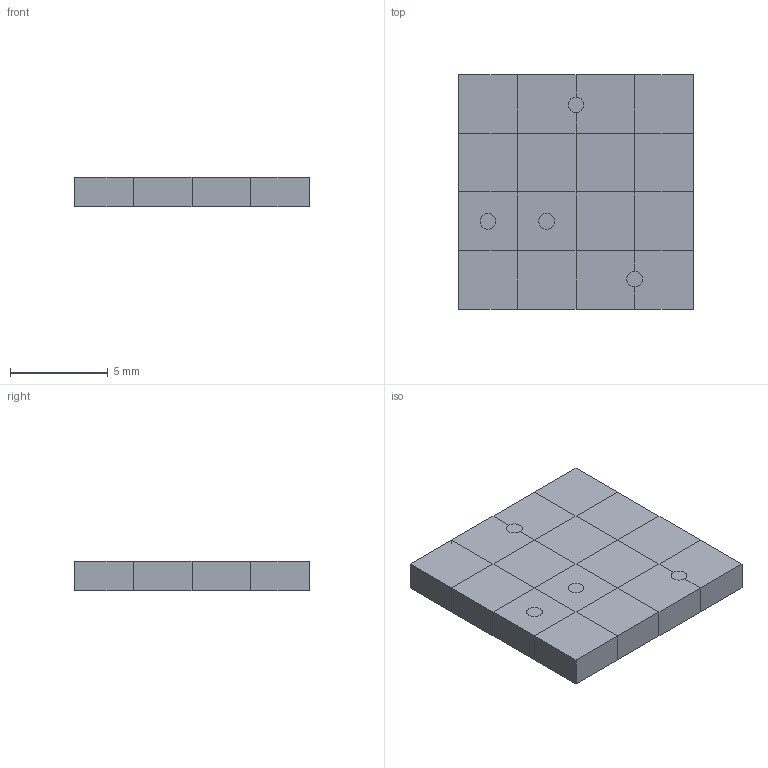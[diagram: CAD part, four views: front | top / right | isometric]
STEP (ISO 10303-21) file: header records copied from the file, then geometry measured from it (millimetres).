
FILE_DESCRIPTION(('Open CASCADE Model'),'2;1');
FILE_NAME('Open CASCADE Shape Model','2026-11-27T07:00:23',('Author'),( 'Open CASCADE'),'Open CASCADE STEP processor 7.9','Open CASCADE 7.9' ,'Unknown');
FILE_SCHEMA(('AUTOMOTIVE_DESIGN { 1 0 10303 214 1 1 1 1 }'));
Length unit declared in the file: millimetre
Products named in the file (3): manifold_S10; fluid; solid
Assembly tree (2 placements, depth 2):
  manifold_S10
    fluid
    solid
Bounding box: 12 x 12 x 1.5 mm (x, y, z)
Volume: 216 mm3; surface area: 1139.1 mm2
Topology: 2 solids, 2 shells, 716 faces, 2206 edges, 1330 vertices
Faces by surface type: plane 708, cylinder 8
Full cylindrical faces by diameter (mm): 0.8 x8
Entity records: 52958 total; most frequent: CARTESIAN_POINT 9835, DIRECTION 7812, LINE 6034, VECTOR 6034, ORIENTED_EDGE 4412, PCURVE 4412, DEFINITIONAL_REPRESENTATION 4412, EDGE_CURVE 2206
